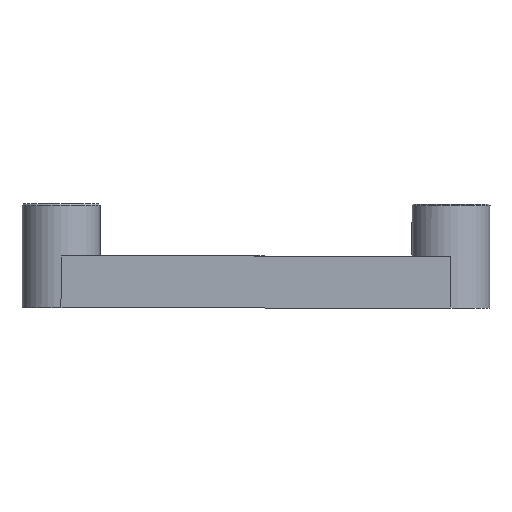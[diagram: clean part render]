
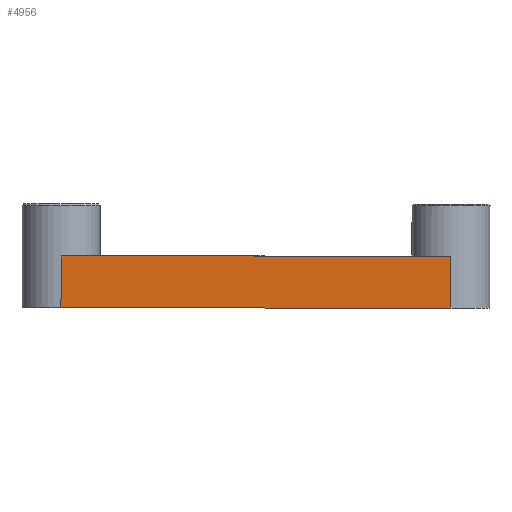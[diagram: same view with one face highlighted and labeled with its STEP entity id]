
A CAD part, front view. The second image highlights one B-rep face of the part: STEP entity #4956.
In plain terms, the highlighted planar face has unit normal (0, -1, 0).
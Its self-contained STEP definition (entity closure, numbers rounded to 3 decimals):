
#1248=DIRECTION('',(1.,0.,0.));
#1249=VECTOR('',#1248,60.);
#1250=CARTESIAN_POINT('',(164.38,-316.27,100.063));
#1251=LINE('',#1250,#1249);
#1367=DIRECTION('',(0.,0.,-1.));
#1368=VECTOR('',#1367,8.);
#1369=CARTESIAN_POINT('',(164.381,-316.27,108.063));
#1370=LINE('',#1369,#1368);
#1392=DIRECTION('',(1.,0.,0.));
#1393=VECTOR('',#1392,60.);
#1394=CARTESIAN_POINT('',(164.381,-316.27,108.063));
#1395=LINE('',#1394,#1393);
#1410=DIRECTION('',(0.,0.,1.));
#1411=VECTOR('',#1410,8.);
#1412=CARTESIAN_POINT('',(224.38,-316.27,100.061));
#1413=LINE('',#1412,#1411);
#2917=CARTESIAN_POINT('',(224.381,-316.27,108.061));
#2919=VERTEX_POINT('',#2917);
#2920=CARTESIAN_POINT('',(164.381,-316.27,108.063));
#2921=VERTEX_POINT('',#2920);
#2940=CARTESIAN_POINT('',(164.38,-316.27,100.063));
#2941=VERTEX_POINT('',#2940);
#2976=CARTESIAN_POINT('',(224.38,-316.27,100.061));
#2977=VERTEX_POINT('',#2976);
#4944=CARTESIAN_POINT('',(230.381,-316.27,108.06));
#4945=DIRECTION('',(0.,-1.,0.));
#4946=DIRECTION('',(-1.,0.,0.));
#4947=AXIS2_PLACEMENT_3D('',#4944,#4945,#4946);
#4948=PLANE('',#4947);
#4950=ORIENTED_EDGE('',*,*,#4949,.F.);
#4951=ORIENTED_EDGE('',*,*,#4743,.F.);
#4952=ORIENTED_EDGE('',*,*,#4886,.F.);
#4953=ORIENTED_EDGE('',*,*,#3697,.T.);
#4954=EDGE_LOOP('',(#4950,#4951,#4952,#4953));
#4955=FACE_OUTER_BOUND('',#4954,.F.);
#4956=ADVANCED_FACE('',(#4955),#4948,.T.);
#3697=EDGE_CURVE('',#2921,#2919,#1395,.T.);
#4743=EDGE_CURVE('',#2941,#2977,#1251,.T.);
#4886=EDGE_CURVE('',#2921,#2941,#1370,.T.);
#4949=EDGE_CURVE('',#2977,#2919,#1413,.T.);
